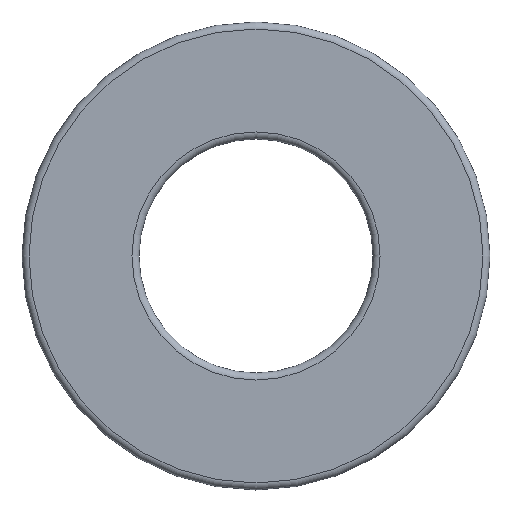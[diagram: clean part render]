
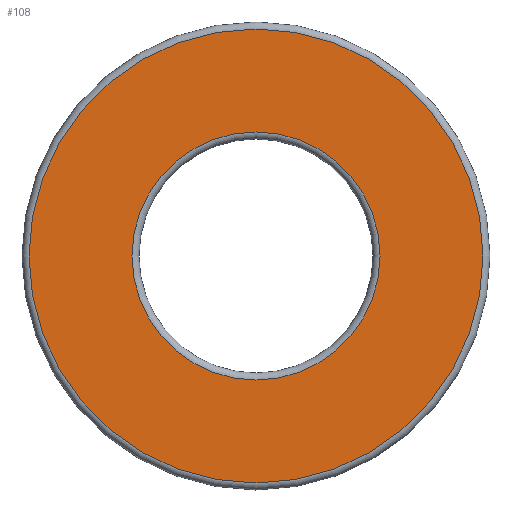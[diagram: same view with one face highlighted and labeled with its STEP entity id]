
A CAD part, left-side view. The second image highlights one B-rep face of the part: STEP entity #108.
In plain terms, the highlighted planar face has unit normal (-1, 0, 0).
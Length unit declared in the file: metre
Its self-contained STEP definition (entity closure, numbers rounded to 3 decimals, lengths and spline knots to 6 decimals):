
#13=PLANE('',#185);
#30=ORIENTED_EDGE('',*,*,#34,.F.);
#31=ORIENTED_EDGE('',*,*,#33,.T.);
#33=EDGE_CURVE('',#41,#41,#49,.T.);
#34=EDGE_CURVE('',#42,#42,#50,.T.);
#41=VERTEX_POINT('',#225);
#42=VERTEX_POINT('',#228);
#49=CIRCLE('',#172,0.00485);
#50=CIRCLE('',#174,0.00265);
#70=EDGE_LOOP('',(#30));
#71=EDGE_LOOP('',(#31));
#86=FACE_BOUND('',#70,.T.);
#87=FACE_BOUND('',#71,.T.);
#108=ADVANCED_FACE('',(#86,#87),#13,.T.);
#172=AXIS2_PLACEMENT_3D('',#224,#192,#193);
#174=AXIS2_PLACEMENT_3D('',#227,#196,#197);
#185=AXIS2_PLACEMENT_3D('',#244,#218,#219);
#192=DIRECTION('',(-1.,0.,0.));
#193=DIRECTION('',(0.,-1.,0.));
#196=DIRECTION('',(-1.,0.,0.));
#197=DIRECTION('',(0.,-1.,0.));
#218=DIRECTION('',(-1.,0.,0.));
#219=DIRECTION('',(0.,-1.,0.));
#224=CARTESIAN_POINT('',(-0.041103,0.017832,0.001297));
#225=CARTESIAN_POINT('',(-0.041103,0.012982,0.001297));
#227=CARTESIAN_POINT('',(-0.041103,0.017832,0.001297));
#228=CARTESIAN_POINT('',(-0.041103,0.015182,0.001297));
#244=CARTESIAN_POINT('',(-0.041103,0.017832,0.001297));
